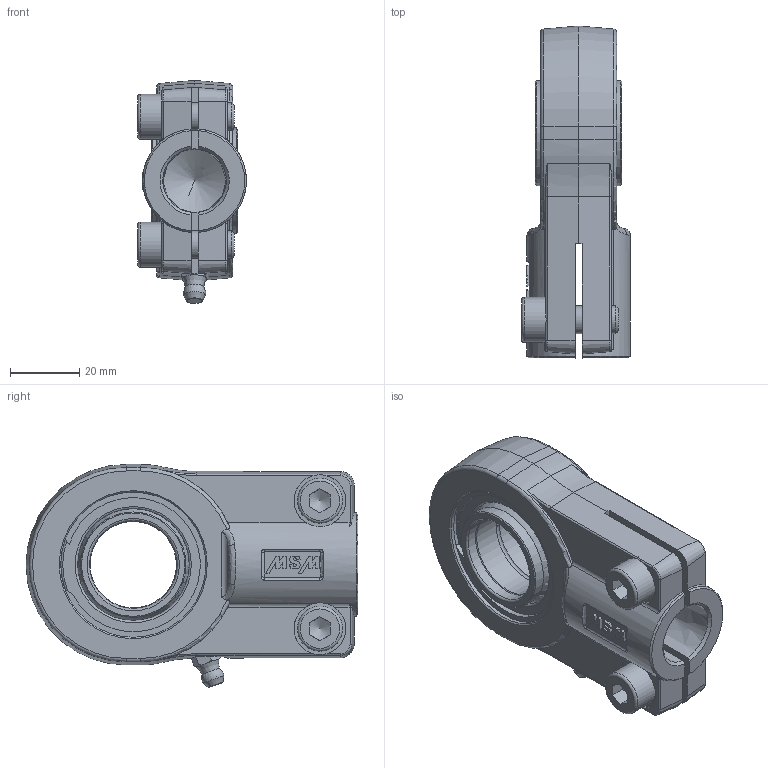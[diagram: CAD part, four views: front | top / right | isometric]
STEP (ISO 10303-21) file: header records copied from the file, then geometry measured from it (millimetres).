
FILE_DESCRIPTION((''),'2;1');
FILE_NAME('H:\WSW\Hydraulikgelenkköpfe\Aktuelle GK Zeichnungen andere Formate\WAPR..CE\WAPR..CE .STP\K-WAPR25CE.stp','2007-12-21T10:54:13',('oliver.joswig'),(''),'Autodesk Inventor 2008','Autodesk Inventor 2008','');
FILE_SCHEMA(('AUTOMOTIVE_DESIGN { 1 0 10303 214 1 1 1 1 }'));
Length unit declared in the file: millimetre
Products named in the file (7): K-WAPR25CE; GEEW_ES_AR mit Nut [Benennung=AR_GEEW25ES][Kugel_dk=17,75mm][Breite=16mm][Radius_r1s=0,6mm][Aussendurchmessser=21mm]; GEEW_ES_IR mit Nut [Benennung=IR25LO][Breite=25 mm][Kugel=17,75 mm][Bund_D=15,25 mm][Freid_b=3,6 mm][Freid_D=12,75 mm][Bohr=12,5 mm][Fase=45 grd][R_rs=0,6 mm]; F-WAPR25CE; SB_Ringe [Benennung=NG25][Breite=2,2 mm][Aussendurchmesser=43,2 mm][T_Dicke=1,5 mm]; DIN 71412  A  (Regelgewinde) AM 6 (keg kurz); DIN EN ISO 4762  (Regelgewinde) M8 x 20
Assembly tree (8 placements, depth 2):
  K-WAPR25CE
    GEEW_ES_AR mit Nut [Benennung=AR_GEEW25ES][Kugel_dk=17,75mm][Breite=16mm][Radius_r1s=0,6mm][Aussendurchmessser=21mm]
    GEEW_ES_IR mit Nut [Benennung=IR25LO][Breite=25 mm][Kugel=17,75 mm][Bund_D=15,25 mm][Freid_b=3,6 mm][Freid_D=12,75 mm][Bohr=12,5 mm][Fase=45 grd][R_rs=0,6 mm]
    F-WAPR25CE
    SB_Ringe [Benennung=NG25][Breite=2,2 mm][Aussendurchmesser=43,2 mm][T_Dicke=1,5 mm]  x2
    DIN 71412  A  (Regelgewinde) AM 6 (keg kurz)
    DIN EN ISO 4762  (Regelgewinde) M8 x 20  x2
Bounding box: 31.5 x 96 x 64.54 mm (x, y, z)
Volume: 82929.3 mm3; surface area: 35124.5 mm2
Topology: 8 solids, 8 shells, 277 faces, 674 edges, 424 vertices
Faces by surface type: plane 112, cylinder 58, bspline 43, cone 42, torus 19, sphere 3
Full cylindrical faces by diameter (mm): 1.281 x2, 2.262 x2, 3 x1, 6 x1, 8 x2, 13 x2, 25 x2, 25.5 x2, 30.5 x2, 41.015 x1, 42 x5, 43.2 x2
Entity records: 9972 total; most frequent: CARTESIAN_POINT 4240, ORIENTED_EDGE 1120, DIRECTION 1098, EDGE_CURVE 560, AXIS2_PLACEMENT_3D 438, VERTEX_POINT 383, EDGE_LOOP 349, FACE_OUTER_BOUND 257
